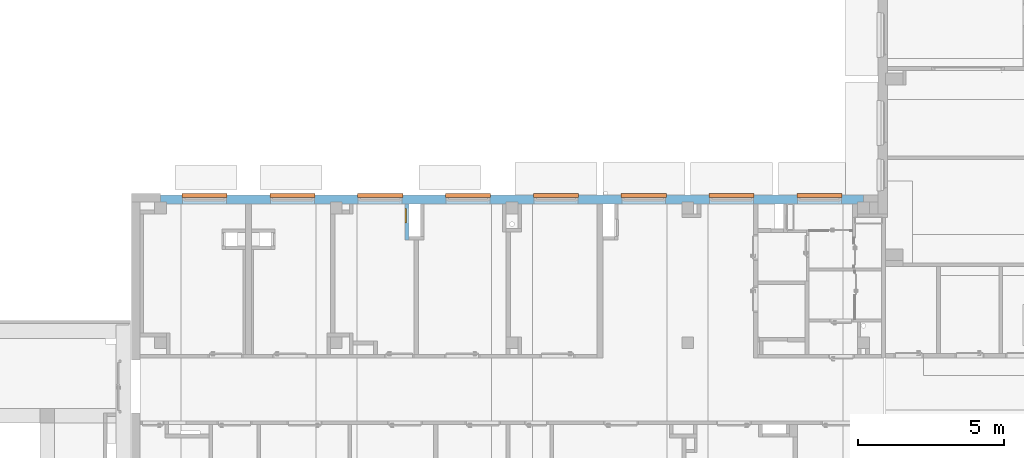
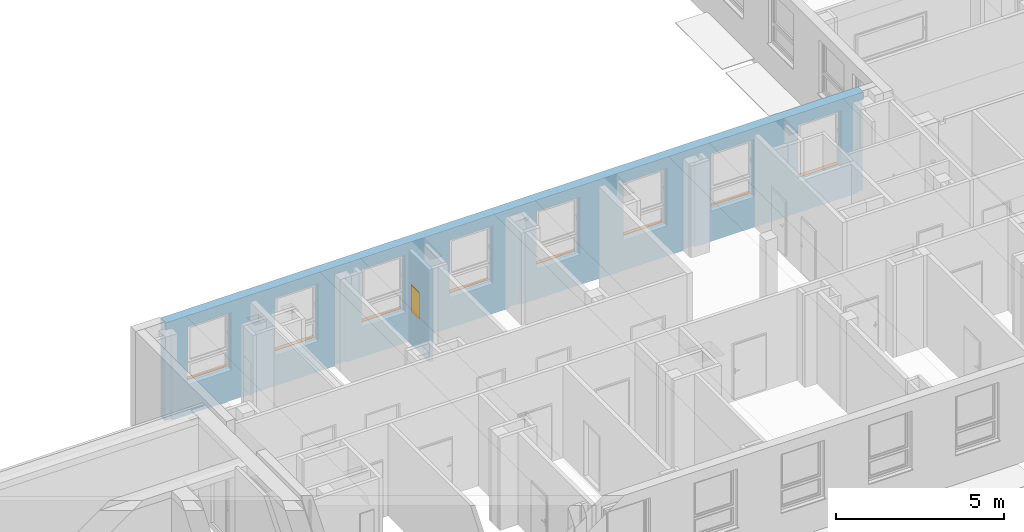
# One storey, part 64 of 140: 8 proxies, 1 window, 9 openings, plus 2 elements that do not belong to this part.
"""IFC4 building model written with IfcOpenShell, lengths in metres."""

from ifc_helpers import new_model, entity, si_unit, converted_unit, derived_unit, frame, frame_2d, origin, origin_with_axes, place, context, subcontext, project, spatial, polyline, rectangle, outline, extrude, clip, bounded_halfspace, faceted_brep, source, transform, mapped, material, layer, layer_set, layer_usage, element, fill, save


model = new_model("IFC4")

# Units and contexts
model_context = context("Model", 3, precision=1e-05, world=origin())
body_context = subcontext(model_context, "Body", "Model", "MODEL_VIEW")
ifc_project = project(units=[si_unit("LENGTHUNIT", "METRE"), si_unit("AREAUNIT", "SQUARE_METRE"), si_unit("VOLUMEUNIT", "CUBIC_METRE"), si_unit("MASSUNIT", "GRAM", prefix="KILO"), converted_unit("PLANEANGLEUNIT", "DEGREE", entity("IfcPlaneAngleMeasure", 0.0174532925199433), si_unit("PLANEANGLEUNIT", "RADIAN"), dimensions=[0, 0, 0, 0, 0, 0, 0]), derived_unit("THERMALTRANSMITTANCEUNIT", [(si_unit("POWERUNIT", "WATT"), 1), (si_unit("THERMODYNAMICTEMPERATUREUNIT", "KELVIN"), -1), (si_unit("LENGTHUNIT", "METRE"), -2)]), derived_unit("VOLUMETRICFLOWRATEUNIT", [(si_unit("LENGTHUNIT", "METRE"), 3), (converted_unit("TIMEUNIT", "hour", entity("IfcTimeMeasure", 3600.0), si_unit("TIMEUNIT", "SECOND"), dimensions=[0, 0, 1, 0, 0, 0, 0]), -1), (si_unit("LENGTHUNIT", "METRE"), -1)])], contexts=[model_context])

# Site, building, storey
site_placement = place(None, origin())
site = spatial("IfcSite", under=ifc_project, at=site_placement, Name="3. ASŘ", CompositionType="ELEMENT")
building_placement = place(site_placement, origin())
building = spatial("IfcBuilding", under=site, at=building_placement, Name="Pavilon C", CompositionType="ELEMENT")
storey_placement = place(building_placement, origin())
storey = spatial("IfcBuildingStorey", under=building, at=storey_placement, Name="Půdorys 1.NP", CompositionType="ELEMENT", Elevation=0.0)

# Wall, openings, proxies
ifc_material_1 = material(Name="ZELEZOBETONOVÁ KCE")
ifc_layer_1 = layer(ifc_material_1, 0.32)
ifc_layer_set_1 = layer_set([ifc_layer_1])
ifc_layer_usage_1 = layer_usage(ifc_layer_set_1, "AXIS2", "POSITIVE", 0.0)
wall_1_placement = place(storey_placement, frame((24.0, 15.25, -0.1), z_axis=(0.0, 0.0, 1.0), x_axis=(-1.0, 0.0, 0.0)))
wall_1 = element("IfcWall", 1, at=wall_1_placement, inside=storey, material=ifc_layer_usage_1, Name="ZELEZOBETONOVÁ KCE", context=body_context, shape_type="Clipping", body=[
    clip(clip(clip(clip(clip(extrude(rectangle(XDim=24.0, YDim=0.32, at=frame_2d((12.0, 0.16), x_axis=(1.0, 0.0))), origin_with_axes(), (0.0, 0.0, 1.0), 3.6), bounded_halfspace(frame((23.9, 0.285000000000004, 3.35), z_axis=(0.0, 0.0, 1.0), x_axis=(1.0, 0.0, 0.0)), True, origin_with_axes(), polyline([(23.8, 0.250000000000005), (24.0, 0.250000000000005), (24.0, 0.32), (23.8, 0.320000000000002), (23.8, 0.250000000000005)]))), bounded_halfspace(frame((0.0999999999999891, 0.285000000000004, 3.35), z_axis=(0.0, 0.0, 1.0), x_axis=(1.0, 0.0, 0.0)), True, origin_with_axes(), polyline([(-3.63797880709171e-15, 0.250000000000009), (0.199999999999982, 0.250000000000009), (0.199999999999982, 0.320000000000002), (-3.63797880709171e-15, 0.32), (-3.63797880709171e-15, 0.250000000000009)]))), bounded_halfspace(frame((12.0, 0.285000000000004, 3.35), z_axis=(0.0, 0.0, 1.0), x_axis=(1.0, 0.0, 0.0)), True, origin_with_axes(), polyline([(11.8, 0.250000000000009), (12.2, 0.250000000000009), (12.2, 0.32), (11.8, 0.32), (11.8, 0.250000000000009)]))), bounded_halfspace(frame((18.0, 0.285000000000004, 3.35), z_axis=(0.0, 0.0, 1.0), x_axis=(1.0, 0.0, 0.0)), True, origin_with_axes(), polyline([(17.8, 0.250000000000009), (18.2, 0.250000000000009), (18.2, 0.32), (17.8, 0.32), (17.8, 0.250000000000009)]))), bounded_halfspace(frame((5.99999999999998, 0.285000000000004, 3.35), z_axis=(0.0, 0.0, 1.0), x_axis=(1.0, 0.0, 0.0)), True, origin_with_axes(), polyline([(5.79999999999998, 0.250000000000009), (6.19999999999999, 0.250000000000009), (6.19999999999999, 0.32), (5.79999999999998, 0.32), (5.79999999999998, 0.250000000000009)]))),
])
opening_1_placement = place(wall_1_placement, frame((0.750000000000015, 0.0, 1.1), z_axis=(0.0, 1.0, 0.0), x_axis=(0.0, 0.0, 1.0)))
opening_1 = element("IfcOpeningElement", 2, at=opening_1_placement, cuts=wall_1, Name="Okenní otvor", ObjectType="Opening", context=body_context, shape_type="SweptSolid", body=[
    extrude(outline(polyline([(0.0, 1.5), (2.1, 1.5), (2.1, 0.0), (0.0, 0.0), (0.0, 1.5)])), origin_with_axes(), (0.0, 0.0, 1.0), 0.32),
])
opening_2_placement = place(wall_1_placement, frame((3.75000000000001, 0.0, 1.1), z_axis=(0.0, 1.0, 0.0), x_axis=(0.0, 0.0, 1.0)))
opening_2 = element("IfcOpeningElement", 3, at=opening_2_placement, cuts=wall_1, Name="Okenní otvor", ObjectType="Opening", context=body_context, shape_type="SweptSolid", body=[
    extrude(outline(polyline([(0.0, 1.5), (2.1, 1.5), (2.1, 0.0), (0.0, 0.0), (0.0, 1.5)])), origin_with_axes(), (0.0, 0.0, 1.0), 0.32),
])
opening_3_placement = place(wall_1_placement, frame((6.75000000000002, 0.0, 1.1), z_axis=(0.0, 1.0, 0.0), x_axis=(0.0, 0.0, 1.0)))
opening_3 = element("IfcOpeningElement", 4, at=opening_3_placement, cuts=wall_1, Name="Okenní otvor", ObjectType="Opening", context=body_context, shape_type="SweptSolid", body=[
    extrude(outline(polyline([(0.0, 1.5), (2.1, 1.5), (2.1, 0.0), (0.0, 0.0), (0.0, 1.5)])), origin_with_axes(), (0.0, 0.0, 1.0), 0.32),
])
opening_4_placement = place(wall_1_placement, frame((9.75000000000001, 0.0, 1.1), z_axis=(0.0, 1.0, 0.0), x_axis=(0.0, 0.0, 1.0)))
opening_4 = element("IfcOpeningElement", 5, at=opening_4_placement, cuts=wall_1, Name="Okenní otvor", ObjectType="Opening", context=body_context, shape_type="SweptSolid", body=[
    extrude(outline(polyline([(0.0, 1.5), (2.1, 1.5), (2.1, 0.0), (0.0, 0.0), (0.0, 1.5)])), origin_with_axes(), (0.0, 0.0, 1.0), 0.32),
])
opening_5_placement = place(wall_1_placement, frame((15.75, 0.0, 1.1), z_axis=(0.0, 1.0, 0.0), x_axis=(0.0, 0.0, 1.0)))
opening_5 = element("IfcOpeningElement", 6, at=opening_5_placement, cuts=wall_1, Name="Okenní otvor", ObjectType="Opening", context=body_context, shape_type="SweptSolid", body=[
    extrude(outline(polyline([(0.0, 1.5), (2.1, 1.5), (2.1, 0.0), (0.0, 0.0), (0.0, 1.5)])), origin_with_axes(), (0.0, 0.0, 1.0), 0.32),
])
opening_6_placement = place(wall_1_placement, frame((18.75, 0.0, 1.1), z_axis=(0.0, 1.0, 0.0), x_axis=(0.0, 0.0, 1.0)))
opening_6 = element("IfcOpeningElement", 7, at=opening_6_placement, cuts=wall_1, Name="Okenní otvor", ObjectType="Opening", context=body_context, shape_type="SweptSolid", body=[
    extrude(outline(polyline([(0.0, 1.5), (2.1, 1.5), (2.1, 0.0), (0.0, 0.0), (0.0, 1.5)])), origin_with_axes(), (0.0, 0.0, 1.0), 0.32),
])
opening_7_placement = place(wall_1_placement, frame((21.75, 0.0, 1.1), z_axis=(0.0, 1.0, 0.0), x_axis=(0.0, 0.0, 1.0)))
opening_7 = element("IfcOpeningElement", 8, at=opening_7_placement, cuts=wall_1, Name="Okenní otvor", ObjectType="Opening", context=body_context, shape_type="SweptSolid", body=[
    extrude(outline(polyline([(0.0, 1.5), (2.1, 1.5), (2.1, 0.0), (0.0, 0.0), (0.0, 1.5)])), origin_with_axes(), (0.0, 0.0, 1.0), 0.32),
])
opening_8_placement = place(wall_1_placement, frame((12.75, 0.0, 1.1), z_axis=(0.0, 1.0, 0.0), x_axis=(0.0, 0.0, 1.0)))
opening_8 = element("IfcOpeningElement", 9, at=opening_8_placement, cuts=wall_1, Name="Okenní otvor", ObjectType="Opening", context=body_context, shape_type="SweptSolid", body=[
    extrude(outline(polyline([(0.0, 1.5), (2.1, 1.5), (2.1, 0.0), (0.0, 0.0), (0.0, 1.5)])), origin_with_axes(), (0.0, 0.0, 1.0), 0.32),
])
ifc_material_2 = material(Name="PLECH")
shared_shape_1 = source(origin_with_axes(), body_context, "Body", "Brep", [
    faceted_brep([(0.0, 0.0, 0.0), (0.0, 0.1, 0.0), (0.0, 0.1, 0.005), (0.0, 0.0, 0.005), (1.5, 0.0, 0.0), (1.5, 0.0, 0.005), (1.5, 0.1, 0.005), (1.5, 0.1, 0.0), (-0.02, 0.0, 0.0), (-0.02, -0.035, 0.0), (1.52, -0.035, 0.0), (1.52, 0.0, 0.0), (1.52, 0.0, 0.005), (1.52, -0.04, 0.005), (-0.02, -0.04, 0.005), (-0.02, 0.0, 0.005), (-0.02, -0.04, -0.025), (-0.02, -0.035, -0.025), (1.52, -0.035, -0.025), (1.52, -0.04, -0.025)], [[[0, 1, 2, 3]], [[4, 5, 6, 7]], [[1, 0, 8, 9, 10, 11, 4, 7]], [[2, 1, 7, 6]], [[3, 2, 6, 5, 12, 13, 14, 15]], [[8, 15, 14, 16, 17, 9]], [[11, 10, 18, 19, 13, 12]], [[15, 8, 0, 3]], [[5, 4, 11, 12]], [[16, 14, 13, 19]], [[17, 16, 19, 18]], [[9, 17, 18, 10]]], orient=[[False], [False], [False], [False], [False], [False], [False], [False], [False], [False], [False], [False]]),
    faceted_brep([(-0.02, 0.0, 0.0), (-0.02, 0.1, 0.0), (-0.02, 0.1, 0.005), (-0.02, 0.0, 0.005), (0.0, 0.0, 0.0), (0.0, 0.0, 0.005), (0.0, 0.1, 0.005), (0.0, 0.1, 0.0)], [[[0, 1, 2, 3]], [[4, 5, 6, 7]], [[1, 0, 4, 7]], [[2, 1, 7, 6]], [[3, 2, 6, 5]], [[0, 3, 5, 4]]], orient=[[False], [False], [False], [False], [False], [False]]),
    faceted_brep([(1.5, 0.0, 0.0), (1.5, 0.1, 0.0), (1.5, 0.1, 0.005), (1.5, 0.0, 0.005), (1.52, 0.0, 0.0), (1.52, 0.0, 0.005), (1.52, 0.1, 0.005), (1.52, 0.1, 0.0)], [[[0, 1, 2, 3]], [[4, 5, 6, 7]], [[1, 0, 4, 7]], [[2, 1, 7, 6]], [[3, 2, 6, 5]], [[0, 3, 5, 4]]], orient=[[False], [False], [False], [False], [False], [False]]),
])
proxy_1_placement = place(opening_1_placement, frame((0.0, 0.0, 0.0), z_axis=(1.0, 0.0, 0.0), x_axis=(0.0, 1.0, 0.0)))
proxy_1 = element("IfcBuildingElementProxy", 10, at=proxy_1_placement, inside=storey, material=ifc_material_2, Name="Parapet vnější", context=body_context, shape_type="MappedRepresentation", body=[
    mapped(shared_shape_1, transform((0.0, 0.0, 0.0), x_axis=(1.0, 0.0, 0.0), y_axis=(0.0, 1.0, 0.0), z_axis=(0.0, 0.0, 1.0), scale=1.0)),
])
fill(opening_1, proxy_1)
ifc_material_3 = material(Name="PLECH")
shared_shape_2 = source(origin_with_axes(), body_context, "Body", "Brep", [
    faceted_brep([(0.0, 0.0, 0.0), (0.0, 0.1, 0.0), (0.0, 0.1, 0.005), (0.0, 0.0, 0.005), (1.5, 0.0, 0.0), (1.5, 0.0, 0.005), (1.5, 0.1, 0.005), (1.5, 0.1, 0.0), (-0.02, 0.0, 0.0), (-0.02, -0.035, 0.0), (1.52, -0.035, 0.0), (1.52, 0.0, 0.0), (1.52, 0.0, 0.005), (1.52, -0.04, 0.005), (-0.02, -0.04, 0.005), (-0.02, 0.0, 0.005), (-0.02, -0.04, -0.025), (-0.02, -0.035, -0.025), (1.52, -0.035, -0.025), (1.52, -0.04, -0.025)], [[[0, 1, 2, 3]], [[4, 5, 6, 7]], [[1, 0, 8, 9, 10, 11, 4, 7]], [[2, 1, 7, 6]], [[3, 2, 6, 5, 12, 13, 14, 15]], [[8, 15, 14, 16, 17, 9]], [[11, 10, 18, 19, 13, 12]], [[15, 8, 0, 3]], [[5, 4, 11, 12]], [[16, 14, 13, 19]], [[17, 16, 19, 18]], [[9, 17, 18, 10]]], orient=[[False], [False], [False], [False], [False], [False], [False], [False], [False], [False], [False], [False]]),
    faceted_brep([(-0.02, 0.0, 0.0), (-0.02, 0.1, 0.0), (-0.02, 0.1, 0.005), (-0.02, 0.0, 0.005), (0.0, 0.0, 0.0), (0.0, 0.0, 0.005), (0.0, 0.1, 0.005), (0.0, 0.1, 0.0)], [[[0, 1, 2, 3]], [[4, 5, 6, 7]], [[1, 0, 4, 7]], [[2, 1, 7, 6]], [[3, 2, 6, 5]], [[0, 3, 5, 4]]], orient=[[False], [False], [False], [False], [False], [False]]),
    faceted_brep([(1.5, 0.0, 0.0), (1.5, 0.1, 0.0), (1.5, 0.1, 0.005), (1.5, 0.0, 0.005), (1.52, 0.0, 0.0), (1.52, 0.0, 0.005), (1.52, 0.1, 0.005), (1.52, 0.1, 0.0)], [[[0, 1, 2, 3]], [[4, 5, 6, 7]], [[1, 0, 4, 7]], [[2, 1, 7, 6]], [[3, 2, 6, 5]], [[0, 3, 5, 4]]], orient=[[False], [False], [False], [False], [False], [False]]),
])
proxy_2_placement = place(opening_2_placement, frame((0.0, 0.0, 0.0), z_axis=(1.0, 0.0, 0.0), x_axis=(0.0, 1.0, 0.0)))
proxy_2 = element("IfcBuildingElementProxy", 11, at=proxy_2_placement, inside=storey, material=ifc_material_3, Name="Parapet vnější", context=body_context, shape_type="MappedRepresentation", body=[
    mapped(shared_shape_2, transform((0.0, 0.0, 0.0), x_axis=(1.0, 0.0, 0.0), y_axis=(0.0, 1.0, 0.0), z_axis=(0.0, 0.0, 1.0), scale=1.0)),
])
fill(opening_2, proxy_2)
ifc_material_4 = material(Name="PLECH")
shared_shape_3 = source(origin_with_axes(), body_context, "Body", "Brep", [
    faceted_brep([(0.0, 0.0, 0.0), (0.0, 0.1, 0.0), (0.0, 0.1, 0.005), (0.0, 0.0, 0.005), (1.5, 0.0, 0.0), (1.5, 0.0, 0.005), (1.5, 0.1, 0.005), (1.5, 0.1, 0.0), (-0.02, 0.0, 0.0), (-0.02, -0.035, 0.0), (1.52, -0.035, 0.0), (1.52, 0.0, 0.0), (1.52, 0.0, 0.005), (1.52, -0.04, 0.005), (-0.02, -0.04, 0.005), (-0.02, 0.0, 0.005), (-0.02, -0.04, -0.025), (-0.02, -0.035, -0.025), (1.52, -0.035, -0.025), (1.52, -0.04, -0.025)], [[[0, 1, 2, 3]], [[4, 5, 6, 7]], [[1, 0, 8, 9, 10, 11, 4, 7]], [[2, 1, 7, 6]], [[3, 2, 6, 5, 12, 13, 14, 15]], [[8, 15, 14, 16, 17, 9]], [[11, 10, 18, 19, 13, 12]], [[15, 8, 0, 3]], [[5, 4, 11, 12]], [[16, 14, 13, 19]], [[17, 16, 19, 18]], [[9, 17, 18, 10]]], orient=[[False], [False], [False], [False], [False], [False], [False], [False], [False], [False], [False], [False]]),
    faceted_brep([(-0.02, 0.0, 0.0), (-0.02, 0.1, 0.0), (-0.02, 0.1, 0.005), (-0.02, 0.0, 0.005), (0.0, 0.0, 0.0), (0.0, 0.0, 0.005), (0.0, 0.1, 0.005), (0.0, 0.1, 0.0)], [[[0, 1, 2, 3]], [[4, 5, 6, 7]], [[1, 0, 4, 7]], [[2, 1, 7, 6]], [[3, 2, 6, 5]], [[0, 3, 5, 4]]], orient=[[False], [False], [False], [False], [False], [False]]),
    faceted_brep([(1.5, 0.0, 0.0), (1.5, 0.1, 0.0), (1.5, 0.1, 0.005), (1.5, 0.0, 0.005), (1.52, 0.0, 0.0), (1.52, 0.0, 0.005), (1.52, 0.1, 0.005), (1.52, 0.1, 0.0)], [[[0, 1, 2, 3]], [[4, 5, 6, 7]], [[1, 0, 4, 7]], [[2, 1, 7, 6]], [[3, 2, 6, 5]], [[0, 3, 5, 4]]], orient=[[False], [False], [False], [False], [False], [False]]),
])
proxy_3_placement = place(opening_3_placement, frame((0.0, 0.0, 0.0), z_axis=(1.0, 0.0, 0.0), x_axis=(0.0, 1.0, 0.0)))
proxy_3 = element("IfcBuildingElementProxy", 12, at=proxy_3_placement, inside=storey, material=ifc_material_4, Name="Parapet vnější", context=body_context, shape_type="MappedRepresentation", body=[
    mapped(shared_shape_3, transform((0.0, 0.0, 0.0), x_axis=(1.0, 0.0, 0.0), y_axis=(0.0, 1.0, 0.0), z_axis=(0.0, 0.0, 1.0), scale=1.0)),
])
fill(opening_3, proxy_3)
ifc_material_5 = material(Name="PLECH")
shared_shape_4 = source(origin_with_axes(), body_context, "Body", "Brep", [
    faceted_brep([(1.81898940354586e-15, 0.0, 0.0), (1.81898940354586e-15, 0.1, 0.0), (1.81898940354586e-15, 0.1, 0.005), (1.81898940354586e-15, 0.0, 0.005), (1.5, 0.0, 0.0), (1.5, 0.0, 0.005), (1.5, 0.1, 0.005), (1.5, 0.1, 0.0), (-0.0199999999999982, 0.0, 0.0), (-0.0199999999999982, -0.035, 0.0), (1.52, -0.035, 0.0), (1.52, 0.0, 0.0), (1.52, 0.0, 0.005), (1.52, -0.04, 0.005), (-0.0199999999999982, -0.04, 0.005), (-0.0199999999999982, 0.0, 0.005), (-0.0199999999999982, -0.04, -0.025), (-0.0199999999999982, -0.035, -0.025), (1.52, -0.035, -0.025), (1.52, -0.04, -0.025)], [[[0, 1, 2, 3]], [[4, 5, 6, 7]], [[1, 0, 8, 9, 10, 11, 4, 7]], [[2, 1, 7, 6]], [[3, 2, 6, 5, 12, 13, 14, 15]], [[8, 15, 14, 16, 17, 9]], [[11, 10, 18, 19, 13, 12]], [[15, 8, 0, 3]], [[5, 4, 11, 12]], [[16, 14, 13, 19]], [[17, 16, 19, 18]], [[9, 17, 18, 10]]], orient=[[False], [False], [False], [False], [False], [False], [False], [False], [False], [False], [False], [False]]),
    faceted_brep([(-0.0199999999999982, 0.0, 0.0), (-0.0199999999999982, 0.1, 0.0), (-0.0199999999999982, 0.1, 0.005), (-0.0199999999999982, 0.0, 0.005), (1.81898940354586e-15, 0.0, 0.0), (1.81898940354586e-15, 0.0, 0.005), (1.81898940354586e-15, 0.1, 0.005), (1.81898940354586e-15, 0.1, 0.0)], [[[0, 1, 2, 3]], [[4, 5, 6, 7]], [[1, 0, 4, 7]], [[2, 1, 7, 6]], [[3, 2, 6, 5]], [[0, 3, 5, 4]]], orient=[[False], [False], [False], [False], [False], [False]]),
    faceted_brep([(1.5, 0.0, 0.0), (1.5, 0.1, 0.0), (1.5, 0.1, 0.005), (1.5, 0.0, 0.005), (1.52, 0.0, 0.0), (1.52, 0.0, 0.005), (1.52, 0.1, 0.005), (1.52, 0.1, 0.0)], [[[0, 1, 2, 3]], [[4, 5, 6, 7]], [[1, 0, 4, 7]], [[2, 1, 7, 6]], [[3, 2, 6, 5]], [[0, 3, 5, 4]]], orient=[[False], [False], [False], [False], [False], [False]]),
])
proxy_4_placement = place(opening_4_placement, frame((0.0, 0.0, 0.0), z_axis=(1.0, 0.0, 0.0), x_axis=(0.0, 1.0, 0.0)))
proxy_4 = element("IfcBuildingElementProxy", 13, at=proxy_4_placement, inside=storey, material=ifc_material_5, Name="Parapet vnější", context=body_context, shape_type="MappedRepresentation", body=[
    mapped(shared_shape_4, transform((0.0, 0.0, 0.0), x_axis=(1.0, 0.0, 0.0), y_axis=(0.0, 1.0, 0.0), z_axis=(0.0, 0.0, 1.0), scale=1.0)),
])
fill(opening_4, proxy_4)
ifc_material_6 = material(Name="PLECH")
shared_shape_5 = source(origin_with_axes(), body_context, "Body", "Brep", [
    faceted_brep([(1.81898940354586e-15, 0.0, 0.0), (1.81898940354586e-15, 0.1, 0.0), (1.81898940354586e-15, 0.1, 0.005), (1.81898940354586e-15, 0.0, 0.005), (1.5, 0.0, 0.0), (1.5, 0.0, 0.005), (1.5, 0.1, 0.005), (1.5, 0.1, 0.0), (-0.0199999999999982, 0.0, 0.0), (-0.0199999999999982, -0.035, 0.0), (1.52, -0.035, 0.0), (1.52, 0.0, 0.0), (1.52, 0.0, 0.005), (1.52, -0.04, 0.005), (-0.0199999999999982, -0.04, 0.005), (-0.0199999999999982, 0.0, 0.005), (-0.0199999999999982, -0.04, -0.025), (-0.0199999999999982, -0.035, -0.025), (1.52, -0.035, -0.025), (1.52, -0.04, -0.025)], [[[0, 1, 2, 3]], [[4, 5, 6, 7]], [[1, 0, 8, 9, 10, 11, 4, 7]], [[2, 1, 7, 6]], [[3, 2, 6, 5, 12, 13, 14, 15]], [[8, 15, 14, 16, 17, 9]], [[11, 10, 18, 19, 13, 12]], [[15, 8, 0, 3]], [[5, 4, 11, 12]], [[16, 14, 13, 19]], [[17, 16, 19, 18]], [[9, 17, 18, 10]]], orient=[[False], [False], [False], [False], [False], [False], [False], [False], [False], [False], [False], [False]]),
    faceted_brep([(-0.0199999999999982, 0.0, 0.0), (-0.0199999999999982, 0.1, 0.0), (-0.0199999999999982, 0.1, 0.005), (-0.0199999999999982, 0.0, 0.005), (1.81898940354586e-15, 0.0, 0.0), (1.81898940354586e-15, 0.0, 0.005), (1.81898940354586e-15, 0.1, 0.005), (1.81898940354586e-15, 0.1, 0.0)], [[[0, 1, 2, 3]], [[4, 5, 6, 7]], [[1, 0, 4, 7]], [[2, 1, 7, 6]], [[3, 2, 6, 5]], [[0, 3, 5, 4]]], orient=[[False], [False], [False], [False], [False], [False]]),
    faceted_brep([(1.5, 0.0, 0.0), (1.5, 0.1, 0.0), (1.5, 0.1, 0.005), (1.5, 0.0, 0.005), (1.52, 0.0, 0.0), (1.52, 0.0, 0.005), (1.52, 0.1, 0.005), (1.52, 0.1, 0.0)], [[[0, 1, 2, 3]], [[4, 5, 6, 7]], [[1, 0, 4, 7]], [[2, 1, 7, 6]], [[3, 2, 6, 5]], [[0, 3, 5, 4]]], orient=[[False], [False], [False], [False], [False], [False]]),
])
proxy_5_placement = place(opening_5_placement, frame((0.0, 0.0, 0.0), z_axis=(1.0, 0.0, 0.0), x_axis=(0.0, 1.0, 0.0)))
proxy_5 = element("IfcBuildingElementProxy", 14, at=proxy_5_placement, inside=storey, material=ifc_material_6, Name="Parapet vnější", context=body_context, shape_type="MappedRepresentation", body=[
    mapped(shared_shape_5, transform((0.0, 0.0, 0.0), x_axis=(1.0, 0.0, 0.0), y_axis=(0.0, 1.0, 0.0), z_axis=(0.0, 0.0, 1.0), scale=1.0)),
])
fill(opening_5, proxy_5)
ifc_material_7 = material(Name="PLECH")
shared_shape_6 = source(origin_with_axes(), body_context, "Body", "Brep", [
    faceted_brep([(2.72848410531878e-15, 0.0, 0.0), (2.72848410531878e-15, 0.1, 0.0), (2.72848410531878e-15, 0.1, 0.005), (2.72848410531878e-15, 0.0, 0.005), (1.5, 0.0, 0.0), (1.5, 0.0, 0.005), (1.5, 0.1, 0.005), (1.5, 0.1, 0.0), (-0.0199999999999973, 0.0, 0.0), (-0.0199999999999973, -0.035, 0.0), (1.52, -0.035, 0.0), (1.52, 0.0, 0.0), (1.52, 0.0, 0.005), (1.52, -0.04, 0.005), (-0.0199999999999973, -0.04, 0.005), (-0.0199999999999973, 0.0, 0.005), (-0.0199999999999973, -0.04, -0.025), (-0.0199999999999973, -0.035, -0.025), (1.52, -0.035, -0.025), (1.52, -0.04, -0.025)], [[[0, 1, 2, 3]], [[4, 5, 6, 7]], [[1, 0, 8, 9, 10, 11, 4, 7]], [[2, 1, 7, 6]], [[3, 2, 6, 5, 12, 13, 14, 15]], [[8, 15, 14, 16, 17, 9]], [[11, 10, 18, 19, 13, 12]], [[15, 8, 0, 3]], [[5, 4, 11, 12]], [[16, 14, 13, 19]], [[17, 16, 19, 18]], [[9, 17, 18, 10]]], orient=[[False], [False], [False], [False], [False], [False], [False], [False], [False], [False], [False], [False]]),
    faceted_brep([(-0.0199999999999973, 0.0, 0.0), (-0.0199999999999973, 0.1, 0.0), (-0.0199999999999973, 0.1, 0.005), (-0.0199999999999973, 0.0, 0.005), (2.72848410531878e-15, 0.0, 0.0), (2.72848410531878e-15, 0.0, 0.005), (2.72848410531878e-15, 0.1, 0.005), (2.72848410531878e-15, 0.1, 0.0)], [[[0, 1, 2, 3]], [[4, 5, 6, 7]], [[1, 0, 4, 7]], [[2, 1, 7, 6]], [[3, 2, 6, 5]], [[0, 3, 5, 4]]], orient=[[False], [False], [False], [False], [False], [False]]),
    faceted_brep([(1.5, 0.0, 0.0), (1.5, 0.1, 0.0), (1.5, 0.1, 0.005), (1.5, 0.0, 0.005), (1.52, 0.0, 0.0), (1.52, 0.0, 0.005), (1.52, 0.1, 0.005), (1.52, 0.1, 0.0)], [[[0, 1, 2, 3]], [[4, 5, 6, 7]], [[1, 0, 4, 7]], [[2, 1, 7, 6]], [[3, 2, 6, 5]], [[0, 3, 5, 4]]], orient=[[False], [False], [False], [False], [False], [False]]),
])
proxy_6_placement = place(opening_6_placement, frame((0.0, 0.0, 0.0), z_axis=(1.0, 0.0, 0.0), x_axis=(0.0, 1.0, 0.0)))
proxy_6 = element("IfcBuildingElementProxy", 15, at=proxy_6_placement, inside=storey, material=ifc_material_7, Name="Parapet vnější", context=body_context, shape_type="MappedRepresentation", body=[
    mapped(shared_shape_6, transform((0.0, 0.0, 0.0), x_axis=(1.0, 0.0, 0.0), y_axis=(0.0, 1.0, 0.0), z_axis=(0.0, 0.0, 1.0), scale=1.0)),
])
fill(opening_6, proxy_6)
ifc_material_8 = material(Name="PLECH")
shared_shape_7 = source(origin_with_axes(), body_context, "Body", "Brep", [
    faceted_brep([(3.18323145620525e-15, 0.0, 0.0), (3.18323145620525e-15, 0.1, 0.0), (3.18323145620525e-15, 0.1, 0.005), (3.18323145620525e-15, 0.0, 0.005), (1.5, 0.0, 0.0), (1.5, 0.0, 0.005), (1.5, 0.1, 0.005), (1.5, 0.1, 0.0), (-0.0199999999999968, 0.0, 0.0), (-0.0199999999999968, -0.035, 0.0), (1.52, -0.035, 0.0), (1.52, 0.0, 0.0), (1.52, 0.0, 0.005), (1.52, -0.04, 0.005), (-0.0199999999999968, -0.04, 0.005), (-0.0199999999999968, 0.0, 0.005), (-0.0199999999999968, -0.04, -0.025), (-0.0199999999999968, -0.035, -0.025), (1.52, -0.035, -0.025), (1.52, -0.04, -0.025)], [[[0, 1, 2, 3]], [[4, 5, 6, 7]], [[1, 0, 8, 9, 10, 11, 4, 7]], [[2, 1, 7, 6]], [[3, 2, 6, 5, 12, 13, 14, 15]], [[8, 15, 14, 16, 17, 9]], [[11, 10, 18, 19, 13, 12]], [[15, 8, 0, 3]], [[5, 4, 11, 12]], [[16, 14, 13, 19]], [[17, 16, 19, 18]], [[9, 17, 18, 10]]], orient=[[False], [False], [False], [False], [False], [False], [False], [False], [False], [False], [False], [False]]),
    faceted_brep([(-0.0199999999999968, 0.0, 0.0), (-0.0199999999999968, 0.1, 0.0), (-0.0199999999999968, 0.1, 0.005), (-0.0199999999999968, 0.0, 0.005), (3.18323145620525e-15, 0.0, 0.0), (3.18323145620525e-15, 0.0, 0.005), (3.18323145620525e-15, 0.1, 0.005), (3.18323145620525e-15, 0.1, 0.0)], [[[0, 1, 2, 3]], [[4, 5, 6, 7]], [[1, 0, 4, 7]], [[2, 1, 7, 6]], [[3, 2, 6, 5]], [[0, 3, 5, 4]]], orient=[[False], [False], [False], [False], [False], [False]]),
    faceted_brep([(1.5, 0.0, 0.0), (1.5, 0.1, 0.0), (1.5, 0.1, 0.005), (1.5, 0.0, 0.005), (1.52, 0.0, 0.0), (1.52, 0.0, 0.005), (1.52, 0.1, 0.005), (1.52, 0.1, 0.0)], [[[0, 1, 2, 3]], [[4, 5, 6, 7]], [[1, 0, 4, 7]], [[2, 1, 7, 6]], [[3, 2, 6, 5]], [[0, 3, 5, 4]]], orient=[[False], [False], [False], [False], [False], [False]]),
])
proxy_7_placement = place(opening_7_placement, frame((0.0, 0.0, 0.0), z_axis=(1.0, 0.0, 0.0), x_axis=(0.0, 1.0, 0.0)))
proxy_7 = element("IfcBuildingElementProxy", 16, at=proxy_7_placement, inside=storey, material=ifc_material_8, Name="Parapet vnější", context=body_context, shape_type="MappedRepresentation", body=[
    mapped(shared_shape_7, transform((0.0, 0.0, 0.0), x_axis=(1.0, 0.0, 0.0), y_axis=(0.0, 1.0, 0.0), z_axis=(0.0, 0.0, 1.0), scale=1.0)),
])
fill(opening_7, proxy_7)
ifc_material_9 = material(Name="PLECH")
shared_shape_8 = source(origin_with_axes(), body_context, "Body", "Brep", [
    faceted_brep([(1.81898940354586e-15, 0.0, 0.0), (1.81898940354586e-15, 0.1, 0.0), (1.81898940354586e-15, 0.1, 0.005), (1.81898940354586e-15, 0.0, 0.005), (1.5, 0.0, 0.0), (1.5, 0.0, 0.005), (1.5, 0.1, 0.005), (1.5, 0.1, 0.0), (-0.0199999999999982, 0.0, 0.0), (-0.0199999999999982, -0.035, 0.0), (1.52, -0.035, 0.0), (1.52, 0.0, 0.0), (1.52, 0.0, 0.005), (1.52, -0.04, 0.005), (-0.0199999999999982, -0.04, 0.005), (-0.0199999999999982, 0.0, 0.005), (-0.0199999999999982, -0.04, -0.025), (-0.0199999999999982, -0.035, -0.025), (1.52, -0.035, -0.025), (1.52, -0.04, -0.025)], [[[0, 1, 2, 3]], [[4, 5, 6, 7]], [[1, 0, 8, 9, 10, 11, 4, 7]], [[2, 1, 7, 6]], [[3, 2, 6, 5, 12, 13, 14, 15]], [[8, 15, 14, 16, 17, 9]], [[11, 10, 18, 19, 13, 12]], [[15, 8, 0, 3]], [[5, 4, 11, 12]], [[16, 14, 13, 19]], [[17, 16, 19, 18]], [[9, 17, 18, 10]]], orient=[[False], [False], [False], [False], [False], [False], [False], [False], [False], [False], [False], [False]]),
    faceted_brep([(-0.0199999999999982, 0.0, 0.0), (-0.0199999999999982, 0.1, 0.0), (-0.0199999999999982, 0.1, 0.005), (-0.0199999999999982, 0.0, 0.005), (1.81898940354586e-15, 0.0, 0.0), (1.81898940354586e-15, 0.0, 0.005), (1.81898940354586e-15, 0.1, 0.005), (1.81898940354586e-15, 0.1, 0.0)], [[[0, 1, 2, 3]], [[4, 5, 6, 7]], [[1, 0, 4, 7]], [[2, 1, 7, 6]], [[3, 2, 6, 5]], [[0, 3, 5, 4]]], orient=[[False], [False], [False], [False], [False], [False]]),
    faceted_brep([(1.5, 0.0, 0.0), (1.5, 0.1, 0.0), (1.5, 0.1, 0.005), (1.5, 0.0, 0.005), (1.52, 0.0, 0.0), (1.52, 0.0, 0.005), (1.52, 0.1, 0.005), (1.52, 0.1, 0.0)], [[[0, 1, 2, 3]], [[4, 5, 6, 7]], [[1, 0, 4, 7]], [[2, 1, 7, 6]], [[3, 2, 6, 5]], [[0, 3, 5, 4]]], orient=[[False], [False], [False], [False], [False], [False]]),
])
proxy_8_placement = place(opening_8_placement, frame((0.0, 0.0, 0.0), z_axis=(1.0, 0.0, 0.0), x_axis=(0.0, 1.0, 0.0)))
proxy_8 = element("IfcBuildingElementProxy", 17, at=proxy_8_placement, inside=storey, material=ifc_material_9, Name="Parapet vnější", context=body_context, shape_type="MappedRepresentation", body=[
    mapped(shared_shape_8, transform((0.0, 0.0, 0.0), x_axis=(1.0, 0.0, 0.0), y_axis=(0.0, 1.0, 0.0), z_axis=(0.0, 0.0, 1.0), scale=1.0)),
])
fill(opening_8, proxy_8)

# Wall, opening, window
ifc_material_10 = material(Name="ZDIVO Z CDm")
ifc_layer_2 = layer(ifc_material_10, 0.125)
ifc_layer_set_2 = layer_set([ifc_layer_2])
ifc_layer_usage_2 = layer_usage(ifc_layer_set_2, "AXIS2", "POSITIVE", 0.0)
wall_2_placement = place(storey_placement, frame((8.47500000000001, 13.705, -0.1), z_axis=(0.0, 0.0, 1.0), x_axis=(0.0, 1.0, 0.0)))
wall_2 = element("IfcWall", 18, at=wall_2_placement, inside=storey, material=ifc_layer_usage_2, Name="ZDIVO Z CDm", context=body_context, shape_type="SweptSolid", body=[
    extrude(rectangle(XDim=1.22500000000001, YDim=0.125, at=frame_2d((0.612500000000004, 0.0625), x_axis=(1.0, 0.0))), origin_with_axes(), (0.0, 0.0, 1.0), 3.35),
])
opening_9_placement = place(wall_2_placement, frame((1.075, 0.125, 1.2), z_axis=(0.0, -1.0, 0.0), x_axis=(0.0, 0.0, 1.0)))
opening_9 = element("IfcOpeningElement", 19, at=opening_9_placement, cuts=wall_2, Name="Okenní otvor", ObjectType="Opening", context=body_context, shape_type="SweptSolid", body=[
    extrude(outline(polyline([(0.0, 0.5), (1.0, 0.5), (1.0, 0.0), (0.0, 0.0), (0.0, 0.5)])), origin_with_axes(), (0.0, 0.0, 1.0), 0.125),
])
shared_shape_9 = source(origin_with_axes(), body_context, "Body", "Brep", [
    faceted_brep([(0.0, 0.0600000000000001, 1.0), (0.0, 0.06, 4.91096680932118e-19), (0.02, 0.06, 4.91096680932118e-19), (0.02, 0.0600000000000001, 1.0), (0.0, 0.01, 6.61433067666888e-18), (0.0, 0.0100000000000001, 1.0), (0.02, 0.0100000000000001, 1.0), (0.02, 0.01, 6.61433067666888e-18)], [[[0, 1, 2, 3]], [[4, 5, 6, 7]], [[1, 0, 5, 4]], [[2, 1, 4, 7]], [[3, 2, 7, 6]], [[0, 3, 6, 5]]], orient=[[False], [False], [False], [False], [False], [False]]),
    faceted_brep([(0.48, 0.0600000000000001, 1.0), (0.48, 0.06, 4.91096680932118e-19), (0.5, 0.06, 4.91096680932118e-19), (0.5, 0.0600000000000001, 1.0), (0.48, 0.01, 6.61433067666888e-18), (0.48, 0.0100000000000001, 1.0), (0.5, 0.0100000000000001, 1.0), (0.5, 0.01, 6.61433067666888e-18)], [[[0, 1, 2, 3]], [[4, 5, 6, 7]], [[1, 0, 5, 4]], [[2, 1, 4, 7]], [[3, 2, 7, 6]], [[0, 3, 6, 5]]], orient=[[False], [False], [False], [False], [False], [False]]),
    faceted_brep([(0.02, 0.06, 0.02), (0.02, 0.06, 4.91096680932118e-19), (0.48, 0.06, 4.91096680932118e-19), (0.48, 0.06, 0.02), (0.02, 0.01, 6.61433067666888e-18), (0.02, 0.01, 0.02), (0.48, 0.01, 0.02), (0.48, 0.01, 6.61433067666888e-18)], [[[0, 1, 2, 3]], [[4, 5, 6, 7]], [[1, 0, 5, 4]], [[2, 1, 4, 7]], [[3, 2, 7, 6]], [[0, 3, 6, 5]]], orient=[[False], [False], [False], [False], [False], [False]]),
    faceted_brep([(0.02, 0.0600000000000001, 1.0), (0.02, 0.0600000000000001, 0.98), (0.48, 0.0600000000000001, 0.98), (0.48, 0.0600000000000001, 1.0), (0.02, 0.0100000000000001, 0.98), (0.02, 0.0100000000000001, 1.0), (0.48, 0.0100000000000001, 1.0), (0.48, 0.0100000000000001, 0.98)], [[[0, 1, 2, 3]], [[4, 5, 6, 7]], [[1, 0, 5, 4]], [[2, 1, 4, 7]], [[3, 2, 7, 6]], [[0, 3, 6, 5]]], orient=[[False], [False], [False], [False], [False], [False]]),
    faceted_brep([(0.02, 0.0100000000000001, 0.98), (0.02, 0.01, 0.02), (0.48, 0.01, 0.02), (0.48, 0.0100000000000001, 0.98), (0.02, 0.0, 0.02), (0.02, 1.17239551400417e-16, 0.98), (0.48, 1.17239551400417e-16, 0.98), (0.48, 0.0, 0.02)], [[[0, 1, 2, 3]], [[4, 5, 6, 7]], [[1, 0, 5, 4]], [[2, 1, 4, 7]], [[3, 2, 7, 6]], [[0, 3, 6, 5]]], orient=[[False], [False], [False], [False], [False], [False]]),
])
window_placement = place(opening_9_placement, frame((0.0, 3.63797880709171e-15, -0.0100000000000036), z_axis=(1.0, 0.0, 0.0), x_axis=(0.0, 1.0, 1.22464679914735e-16)))
window = element("IfcWindow", 20, at=window_placement, inside=storey, Name="O01", OverallHeight=1.0, OverallWidth=0.5, PartitioningType="USERDEFINED", PredefinedType="WINDOW", context=body_context, shape_type="MappedRepresentation", body=[
    mapped(shared_shape_9, transform((0.0, 0.0, 0.0), x_axis=(1.0, 0.0, 0.0), y_axis=(0.0, 1.0, 0.0), z_axis=(0.0, 0.0, 1.0), scale=1.0)),
])
fill(opening_9, window)

save(model, "model.ifc")
